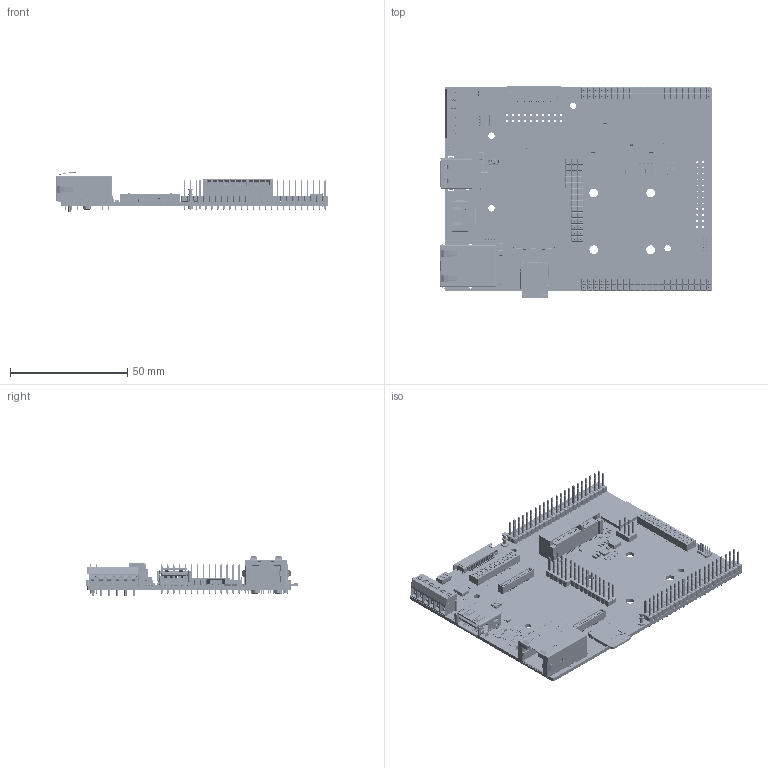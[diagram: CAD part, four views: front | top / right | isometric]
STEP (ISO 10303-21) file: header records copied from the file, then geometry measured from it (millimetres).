
FILE_DESCRIPTION(('Open CASCADE Model'),'2;1');
FILE_NAME('Open CASCADE Shape Model','2024-04-29T09:57:33',('Author'),( 'Open CASCADE'),'Open CASCADE STEP processor 7.5','Open CASCADE 7.5' ,'Unknown');
FILE_SCHEMA(('AUTOMOTIVE_DESIGN { 1 0 10303 214 1 1 1 1 }'));
Length unit declared in the file: millimetre
Products named in the file (142): PCB; Board; Open CASCADE STEP translator 7.5 1.1.1; R21; RES-0603; J17; pin4; J16; J7; 1502-2--3DModel-STEP-56544_RGB8421504; J6; R6; RES-0402; C26; CAP-0805; C25; C24; C23; R11; J5; keystone-PN3000TR; U1; 6743676272; Open CASCADE STEP translator 6.8 78.1; Body; Open CASCADE STEP translator 6.8 78.2.1; Thermal_Shape; Pin_Shape; SW3; 218-4; SW2; 218-2_colors; 218-02-002; 218-40-002; 218 terminal lead frame002; 218 terminal lead frame; 218 terminal lead frame001; 218 terminal lead frame005; 218-56-003; SIM1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
Assembly tree (344 placements, depth 5):
  PCB
    Board
      Open CASCADE STEP translator 7.5 1.1.1
    R21
      RES-0603
    J17
      pin4  x5
    J16
      pin4  x28
    J7
      1502-2--3DModel-STEP-56544_RGB8421504
    J6
      1502-2--3DModel-STEP-56544_RGB8421504
    R6
      RES-0402
    C26
      CAP-0805
    C25
      CAP-0805
    C24
      CAP-0805
    C23
      CAP-0805
    R11
      RES-0603
    J5
      keystone-PN3000TR
    U1
      6743676272
        Open CASCADE STEP translator 6.8 78.1
        Body
          Open CASCADE STEP translator 6.8 78.2.1
        Thermal_Shape
        Pin_Shape  x20
    SW3
      218-4
    SW2
      218-2_colors
        218-02-002
        218-40-002
        218 terminal lead frame002
          218 terminal lead frame
          218 terminal lead frame001
        218 terminal lead frame005
          218 terminal lead frame
          218 terminal lead frame001
        218-56-003  x2
    SIM1
      6743680352
        Body
        Pins
    R20
      RES-0402
    R19
      RES-0402
    R18
      RES-0402
    R17
      RES-0402
    R12
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Bounding box: 116.03 x 90.13 x 17.08 mm (x, y, z)
Volume: 26358.4 mm3; surface area: 45267.1 mm2
Topology: 395 solids, 411 shells, 19245 faces, 50881 edges, 32925 vertices
Faces by surface type: plane 13530, cylinder 4005, bspline 1275, sphere 282, extrusion 65, torus 54, cone 34
Full cylindrical faces by diameter (mm): 0.42 x1, 0.5 x1, 0.6 x11, 0.8 x1, 0.9 x17, 0.95 x6, 1.1 x166, 1.194 x2, 1.3 x6, 1.6 x3, 1.8 x4, 2 x1, 2.05 x1, 2.4 x2, 2.7 x4, 3.25 x2, 3.7 x4
Entity records: 328943 total; most frequent: CARTESIAN_POINT 76318, ORIENTED_EDGE 50986, DIRECTION 45120, EDGE_CURVE 25505, VECTOR 18232, LINE 18167, VERTEX_POINT 16583, AXIS2_PLACEMENT_3D 13444
